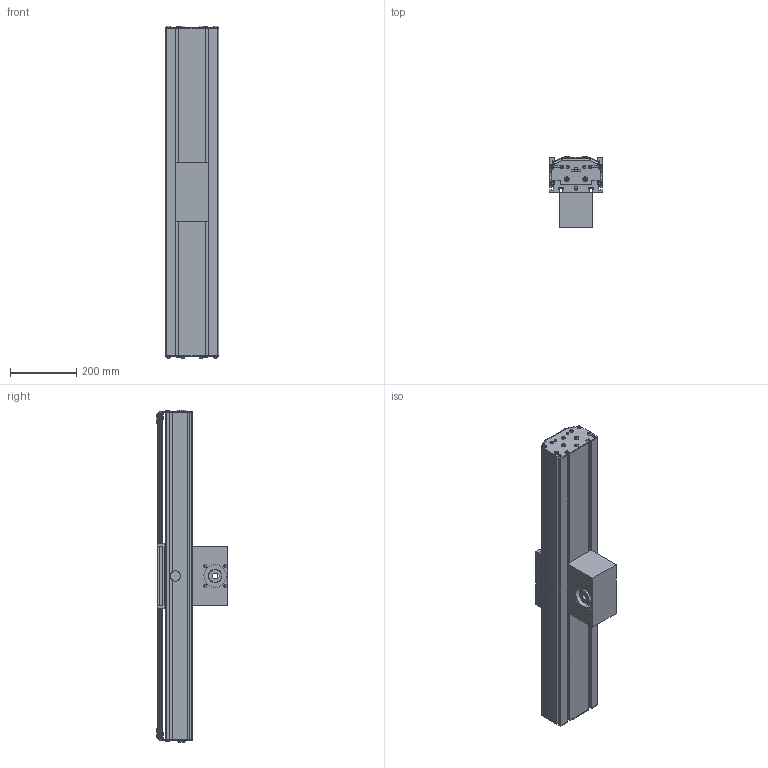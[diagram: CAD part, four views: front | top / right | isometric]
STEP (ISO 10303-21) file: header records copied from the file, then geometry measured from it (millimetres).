
FILE_DESCRIPTION (( 'STEP AP214' ), '1' );
FILE_NAME ('DSZS160P.STEP', '2022-07-25T07:57:01', ( '' ), ( '' ), 'SwSTEP 2.0', 'SolidWorks 2020', '' );
FILE_SCHEMA (( 'AUTOMOTIVE_DESIGN' ));
Length unit declared in the file: millimetre
Products named in the file (5): profile^DSZS160P_standard; timing belt reverse unit^DSZS160P_coupling claw pos.1; DSZS160P; carriage^DSZS160P_carriage 0; end plate^DSZS160P
Assembly tree (5 placements, depth 2):
  DSZS160P
    profile^DSZS160P_standard
    carriage^DSZS160P_carriage 0
    timing belt reverse unit^DSZS160P_coupling claw pos.1
    end plate^DSZS160P  x2
Bounding box: 160 x 215.5 x 999.4 mm (x, y, z)
Volume: 7977344.2 mm3; surface area: 1538834.3 mm2
Topology: 17 solids, 17 shells, 867 faces, 2213 edges, 1426 vertices
Faces by surface type: plane 536, cylinder 237, sphere 40, bspline 32, cone 22
Entity records: 25702 total; most frequent: CARTESIAN_POINT 7073, ORIENTED_EDGE 3314, DIRECTION 3166, EDGE_CURVE 1657, LINE 1144, VECTOR 1144, VERTEX_POINT 1082, AXIS2_PLACEMENT_3D 1011
